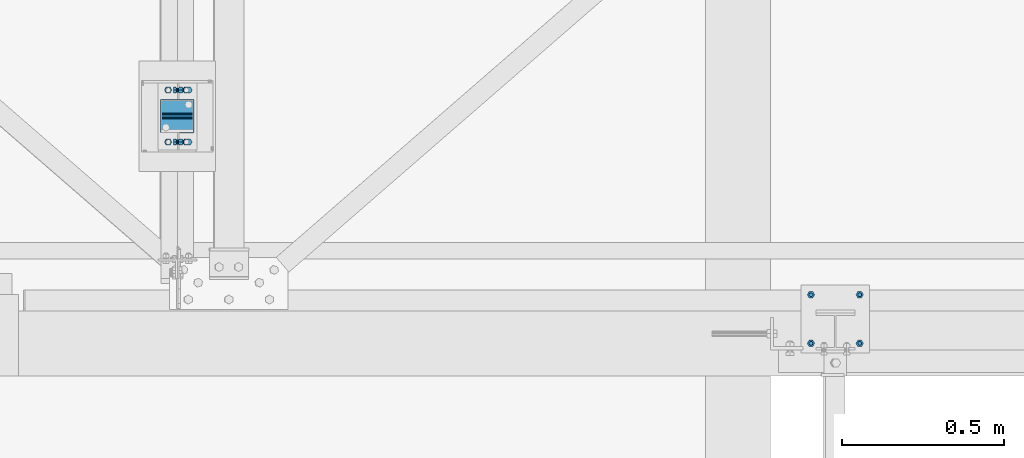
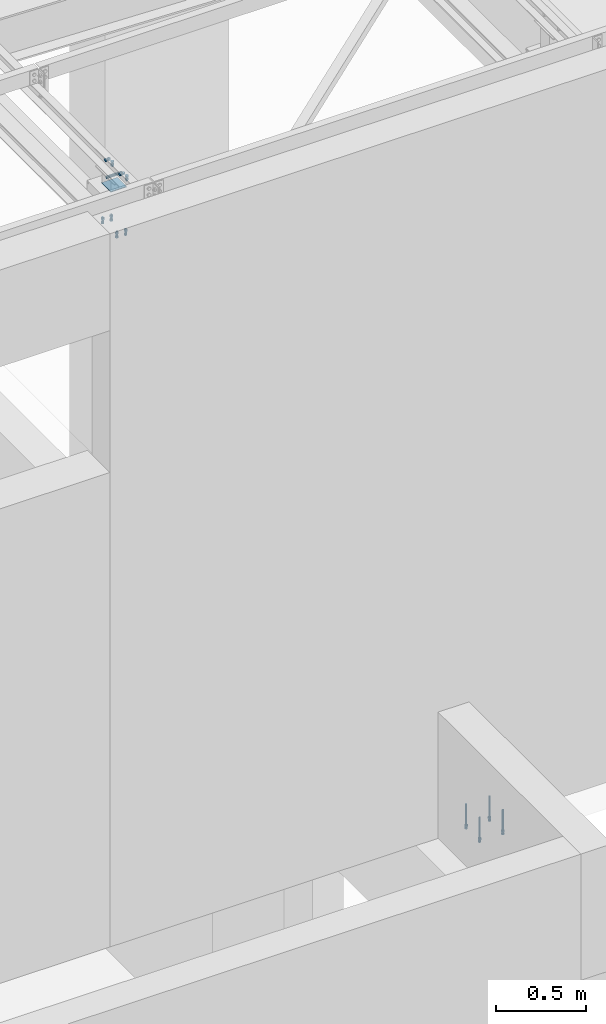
# One storey, part 227 of 3134: 6 mechanical fasteners, 3 elements without a shape of their own.
"""IFC2X3 building model written with IfcOpenShell, lengths in millimetres."""

from ifc_helpers import new_model, si_unit, frame, origin_with_axes, place, context, subcontext, project, spatial, faceted_brep, source, transform, mapped, material, type_object, element, aggregate, save


model = new_model("IFC2X3")

# Units and contexts
model_context = context("Model", 3, precision=1e-05, world=origin_with_axes())
body_context = subcontext(model_context, "Body", "Model", "MODEL_VIEW")
ifc_project = project(units=[si_unit("LENGTHUNIT", "METRE", prefix="MILLI"), si_unit("AREAUNIT", "SQUARE_METRE"), si_unit("VOLUMEUNIT", "CUBIC_METRE"), si_unit("MASSUNIT", "GRAM", prefix="KILO"), si_unit("TIMEUNIT", "SECOND"), si_unit("PLANEANGLEUNIT", "RADIAN"), si_unit("SOLIDANGLEUNIT", "STERADIAN"), si_unit("THERMODYNAMICTEMPERATUREUNIT", "DEGREE_CELSIUS"), si_unit("LUMINOUSINTENSITYUNIT", "LUMEN")], contexts=[model_context])

# Site, building, storey
site_placement = place(None, origin_with_axes())
site = spatial("IfcSite", under=ifc_project, at=site_placement, CompositionType="ELEMENT")
building_placement = place(site_placement, origin_with_axes())
building = spatial("IfcBuilding", under=site, at=building_placement, Name="Undefined", CompositionType="ELEMENT")
storey_placement = place(building_placement, origin_with_axes())
storey = spatial("IfcBuildingStorey", under=building, at=storey_placement, Name="Undefined", CompositionType="ELEMENT", Elevation=0.0)

# Assembly, mechanical fastener
assembly_1_placement = place(storey_placement, origin_with_axes())
assembly_1 = element("IfcElementAssembly", 1, at=assembly_1_placement, inside=storey, Name="HEA120", AssemblyPlace="NOTDEFINED", PredefinedType="RIGID_FRAME")
ifc_material_1 = material(Name="HILTI-HAS")
mechanical_fastener_type = type_object("IfcMechanicalFastenerType", Name="Bolt assembly")
shared_shape_1 = source(origin_with_axes(), body_context, "Body", "Brep", [
    faceted_brep([(10.3923048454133, -17.92, 0.0), (5.19615242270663, -17.92, 9.0), (-5.19615242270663, -17.92, 9.0), (-10.3923048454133, -17.92, 1.27269028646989e-15), (-5.19615242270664, -17.92, -9.0), (5.19615242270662, -17.92, -9.0), (5.19615242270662, -10.0, -9.0), (-5.19615242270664, -10.0, -9.0), (-10.3923048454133, -10.0, 1.27269028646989e-15), (-5.19615242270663, -10.0, 9.0), (5.19615242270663, -10.0, 9.0), (10.3923048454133, -10.0, 0.0), (6.0, -10.0, 0.0), (5.19615242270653, -10.0, 3.00000000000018), (2.99999999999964, -10.0, 5.19615242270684), (-6.21801588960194e-13, -10.0, 6.0), (-3.00000000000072, -10.0, 5.19615242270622), (-5.19615242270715, -10.0, 2.9999999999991), (-6.0, -10.0, -1.24360317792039e-12), (-5.19615242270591, -10.0, -3.00000000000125), (-2.99999999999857, -10.0, -5.19615242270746), (1.85874342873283e-12, -10.0, -6.0), (3.00000000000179, -10.0, -5.1961524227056), (5.19615242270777, -10.0, -2.99999999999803), (5.19615242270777, 150.0, -2.99999999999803), (3.00000000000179, 150.0, -5.1961524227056), (1.85874342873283e-12, 150.0, -6.0), (-2.99999999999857, 150.0, -5.19615242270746), (-5.19615242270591, 150.0, -3.00000000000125), (-6.0, 150.0, -1.24360317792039e-12), (-5.19615242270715, 150.0, 2.9999999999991), (-3.00000000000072, 150.0, 5.19615242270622), (-6.21801588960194e-13, 150.0, 6.0), (2.99999999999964, 150.0, 5.19615242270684), (5.19615242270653, 150.0, 3.00000000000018), (6.0, 150.0, 0.0), (11.5008173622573, 0.0, 0.0), (5.75040868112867, 0.0, 9.96), (-5.75040868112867, 0.0, 9.96), (-11.5008173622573, 0.0, 1.40844391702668e-15), (-5.75040868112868, 0.0, -9.96), (5.75040868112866, 0.0, -9.96), (5.75040868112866, 7.92, -9.96), (-5.75040868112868, 7.92, -9.96), (-11.5008173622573, 7.92, 1.40844391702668e-15), (-5.75040868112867, 7.92, 9.96), (5.75040868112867, 7.92, 9.96), (11.5008173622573, 7.92, 0.0)], [[[0, 1, 2, 3, 4, 5]], [[6, 7, 8, 9, 10, 11]], [[0, 11, 10, 1]], [[1, 10, 9, 2]], [[2, 9, 8, 3]], [[3, 8, 7, 4]], [[4, 7, 6, 5]], [[5, 6, 11, 0]], [[12, 13, 14, 15, 16, 17, 18, 19, 20, 21, 22, 23]], [[24, 25, 26, 27, 28, 29, 30, 31, 32, 33, 34, 35]], [[12, 35, 34, 13]], [[13, 34, 33, 14]], [[14, 33, 32, 15]], [[15, 32, 31, 16]], [[16, 31, 30, 17]], [[17, 30, 29, 18]], [[18, 29, 28, 19]], [[19, 28, 27, 20]], [[20, 27, 26, 21]], [[21, 26, 25, 22]], [[22, 25, 24, 23]], [[23, 24, 35, 12]], [[36, 37, 38, 39, 40, 41]], [[42, 43, 44, 45, 46, 47]], [[36, 47, 46, 37]], [[37, 46, 45, 38]], [[38, 45, 44, 39]], [[39, 44, 43, 40]], [[40, 43, 42, 41]], [[41, 42, 47, 36]]]),
    faceted_brep([(7.0, -10.0, 0.0), (6.06217782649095, -10.0, 3.50000000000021), (3.49999999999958, -10.0, 6.06217782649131), (-7.25435187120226e-13, -10.0, 7.0), (-3.50000000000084, -10.0, 6.06217782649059), (-6.06217782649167, -10.0, 3.49999999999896), (-7.0, -10.0, -1.45087037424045e-12), (-6.06217782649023, -10.0, -3.50000000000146), (-3.49999999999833, -10.0, -6.06217782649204), (2.1685340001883e-12, -10.0, -7.0), (3.50000000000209, -10.0, -6.06217782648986), (6.0621778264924, -10.0, -3.4999999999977), (6.0621778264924, 0.0999999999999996, -3.4999999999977), (3.50000000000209, 0.0999999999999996, -6.06217782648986), (2.1685340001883e-12, 0.0999999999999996, -7.0), (-3.49999999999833, 0.0999999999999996, -6.06217782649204), (-6.06217782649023, 0.0999999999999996, -3.50000000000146), (-7.0, 0.0999999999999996, -1.45087037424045e-12), (-6.06217782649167, 0.0999999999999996, 3.49999999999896), (-3.50000000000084, 0.0999999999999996, 6.06217782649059), (-7.25435187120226e-13, 0.0999999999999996, 7.0), (3.49999999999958, 0.0999999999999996, 6.06217782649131), (6.06217782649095, 0.0999999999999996, 3.50000000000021), (7.0, 0.0999999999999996, 0.0)], [[[0, 1, 2, 3, 4, 5, 6, 7, 8, 9, 10, 11]], [[12, 13, 14, 15, 16, 17, 18, 19, 20, 21, 22, 23]], [[0, 23, 22, 1]], [[1, 22, 21, 2]], [[2, 21, 20, 3]], [[3, 20, 19, 4]], [[4, 19, 18, 5]], [[5, 18, 17, 6]], [[6, 17, 16, 7]], [[7, 16, 15, 8]], [[8, 15, 14, 9]], [[9, 14, 13, 10]], [[10, 13, 12, 11]], [[11, 12, 23, 0]]]),
])
mechanical_fastener_1_placement = place(assembly_1_placement, frame((27970.0, 49894.9999999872, 5960.0), z_axis=(0.0, -1.0, 0.0), x_axis=(1.0, 0.0, 0.0)))
mechanical_fastener_1 = element("IfcMechanicalFastener", 2, at=mechanical_fastener_1_placement, type_object=mechanical_fastener_type, material=ifc_material_1, Name="Bolt assembly", NominalDiameter=12.0, NominalLength=160.0, context=body_context, shape_type="MappedRepresentation", body=[
    mapped(shared_shape_1, transform((0.0, 0.0, -75.0))),
    mapped(shared_shape_1, transform((150.0, 0.0, -75.0))),
    mapped(shared_shape_1, transform((0.0, 0.0, 75.0))),
    mapped(shared_shape_1, transform((150.0, 0.0, 75.0))),
])
aggregate(assembly_1, [mechanical_fastener_1])

assembly_2_placement = place(storey_placement, origin_with_axes())
assembly_2 = element("IfcElementAssembly", 3, at=assembly_2_placement, inside=storey, AssemblyPlace="NOTDEFINED", PredefinedType="RIGID_FRAME")
ifc_material_2 = material(Name="8.8")
shared_shape_2 = source(origin_with_axes(), body_context, "Body", "Brep", [
    faceted_brep([(10.9696551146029, -14.0, 0.0), (5.48482755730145, -14.0, 9.5), (-5.48482755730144, -14.0, 9.5), (-10.9696551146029, -14.0, 1.34339530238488e-15), (-5.48482755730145, -14.0, -9.5), (5.48482755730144, -14.0, -9.50000000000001), (5.48482755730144, -6.0, -9.50000000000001), (-5.48482755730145, -6.0, -9.5), (-10.9696551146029, -6.0, 1.34339530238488e-15), (-5.48482755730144, -6.0, 9.5), (5.48482755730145, -6.0, 9.5), (10.9696551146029, -6.0, 0.0), (6.0, -6.0, 0.0), (5.19615242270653, -6.0, 3.00000000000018), (2.99999999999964, -6.0, 5.19615242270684), (-6.21801588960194e-13, -6.0, 6.0), (-3.00000000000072, -6.0, 5.19615242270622), (-5.19615242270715, -6.0, 2.9999999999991), (-6.0, -6.0, -1.24360317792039e-12), (-5.19615242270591, -6.0, -3.00000000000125), (-2.99999999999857, -6.0, -5.19615242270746), (1.85874342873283e-12, -6.0, -6.0), (3.00000000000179, -6.0, -5.1961524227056), (5.19615242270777, -6.0, -2.99999999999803), (5.19615242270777, 24.0, -2.99999999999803), (3.00000000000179, 24.0, -5.1961524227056), (1.85874342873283e-12, 24.0, -6.0), (-2.99999999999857, 24.0, -5.19615242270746), (-5.19615242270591, 24.0, -3.00000000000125), (-6.0, 24.0, -1.24360317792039e-12), (-5.19615242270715, 24.0, 2.9999999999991), (-3.00000000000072, 24.0, 5.19615242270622), (-6.21801588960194e-13, 24.0, 6.0), (2.99999999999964, 24.0, 5.19615242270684), (5.19615242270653, 24.0, 3.00000000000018), (6.0, 24.0, 0.0), (10.9696551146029, 6.00000000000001, 0.0), (5.48482755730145, 6.00000000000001, 9.5), (-5.48482755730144, 6.00000000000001, 9.5), (-10.9696551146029, 6.00000000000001, 1.34339530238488e-15), (-5.48482755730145, 6.00000000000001, -9.5), (5.48482755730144, 6.00000000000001, -9.50000000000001), (5.48482755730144, 16.0, -9.50000000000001), (-5.48482755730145, 16.0, -9.5), (-10.9696551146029, 16.0, 1.34339530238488e-15), (-5.48482755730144, 16.0, 9.5), (5.48482755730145, 16.0, 9.5), (10.9696551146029, 16.0, 0.0)], [[[0, 1, 2, 3, 4, 5]], [[6, 7, 8, 9, 10, 11]], [[0, 11, 10, 1]], [[1, 10, 9, 2]], [[2, 9, 8, 3]], [[3, 8, 7, 4]], [[4, 7, 6, 5]], [[5, 6, 11, 0]], [[12, 13, 14, 15, 16, 17, 18, 19, 20, 21, 22, 23]], [[24, 25, 26, 27, 28, 29, 30, 31, 32, 33, 34, 35]], [[12, 35, 34, 13]], [[13, 34, 33, 14]], [[14, 33, 32, 15]], [[15, 32, 31, 16]], [[16, 31, 30, 17]], [[17, 30, 29, 18]], [[18, 29, 28, 19]], [[19, 28, 27, 20]], [[20, 27, 26, 21]], [[21, 26, 25, 22]], [[22, 25, 24, 23]], [[23, 24, 35, 12]], [[36, 37, 38, 39, 40, 41]], [[42, 43, 44, 45, 46, 47]], [[36, 47, 46, 37]], [[37, 46, 45, 38]], [[38, 45, 44, 39]], [[39, 44, 43, 40]], [[40, 43, 42, 41]], [[41, 42, 47, 36]]]),
    faceted_brep([(7.0, -0.1, 0.0), (6.06217782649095, -0.1, 3.50000000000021), (3.49999999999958, -0.1, 6.06217782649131), (-7.25435187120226e-13, -0.1, 7.0), (-3.50000000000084, -0.1, 6.06217782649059), (-6.06217782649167, -0.1, 3.49999999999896), (-7.0, -0.1, -1.45087037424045e-12), (-6.06217782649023, -0.1, -3.50000000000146), (-3.49999999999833, -0.1, -6.06217782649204), (2.1685340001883e-12, -0.1, -7.0), (3.50000000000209, -0.1, -6.06217782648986), (6.0621778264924, -0.1, -3.4999999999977), (6.0621778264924, 6.00000000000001, -3.4999999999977), (3.50000000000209, 6.00000000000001, -6.06217782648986), (2.1685340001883e-12, 6.00000000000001, -7.0), (-3.49999999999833, 6.00000000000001, -6.06217782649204), (-6.06217782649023, 6.00000000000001, -3.50000000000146), (-7.0, 6.00000000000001, -1.45087037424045e-12), (-6.06217782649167, 6.00000000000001, 3.49999999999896), (-3.50000000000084, 6.00000000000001, 6.06217782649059), (-7.25435187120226e-13, 6.00000000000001, 7.0), (3.49999999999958, 6.00000000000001, 6.06217782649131), (6.06217782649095, 6.00000000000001, 3.50000000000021), (7.0, 6.00000000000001, 0.0), (7.0, -5.9, 0.0), (6.06217782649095, -5.9, 3.50000000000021), (3.49999999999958, -5.9, 6.06217782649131), (-7.25435187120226e-13, -5.9, 7.0), (-3.50000000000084, -5.9, 6.06217782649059), (-6.06217782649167, -5.9, 3.49999999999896), (-7.0, -5.9, -1.45087037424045e-12), (-6.06217782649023, -5.9, -3.50000000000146), (-3.49999999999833, -5.9, -6.06217782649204), (2.1685340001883e-12, -5.9, -7.0), (3.50000000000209, -5.9, -6.06217782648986), (6.0621778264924, -5.9, -3.4999999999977), (6.0621778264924, 0.0999999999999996, -3.4999999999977), (3.50000000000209, 0.0999999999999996, -6.06217782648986), (2.1685340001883e-12, 0.0999999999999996, -7.0), (-3.49999999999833, 0.0999999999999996, -6.06217782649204), (-6.06217782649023, 0.0999999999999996, -3.50000000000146), (-7.0, 0.0999999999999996, -1.45087037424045e-12), (-6.06217782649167, 0.0999999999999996, 3.49999999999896), (-3.50000000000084, 0.0999999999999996, 6.06217782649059), (-7.25435187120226e-13, 0.0999999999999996, 7.0), (3.49999999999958, 0.0999999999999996, 6.06217782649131), (6.06217782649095, 0.0999999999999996, 3.50000000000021), (7.0, 0.0999999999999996, 0.0)], [[[0, 1, 2, 3, 4, 5, 6, 7, 8, 9, 10, 11]], [[12, 13, 14, 15, 16, 17, 18, 19, 20, 21, 22, 23]], [[0, 23, 22, 1]], [[1, 22, 21, 2]], [[2, 21, 20, 3]], [[3, 20, 19, 4]], [[4, 19, 18, 5]], [[5, 18, 17, 6]], [[6, 17, 16, 7]], [[7, 16, 15, 8]], [[8, 15, 14, 9]], [[9, 14, 13, 10]], [[10, 13, 12, 11]], [[11, 12, 23, 0]], [[24, 25, 26, 27, 28, 29, 30, 31, 32, 33, 34, 35]], [[36, 37, 38, 39, 40, 41, 42, 43, 44, 45, 46, 47]], [[24, 47, 46, 25]], [[25, 46, 45, 26]], [[26, 45, 44, 27]], [[27, 44, 43, 28]], [[28, 43, 42, 29]], [[29, 42, 41, 30]], [[30, 41, 40, 31]], [[31, 40, 39, 32]], [[32, 39, 38, 33]], [[33, 38, 37, 34]], [[34, 37, 36, 35]], [[35, 36, 47, 24]]]),
])
mechanical_fastener_2_placement = place(assembly_2_placement, frame((26054.0, 50520.0, 10765.0), z_axis=(0.0, -1.0, 0.0), x_axis=(-1.0, 0.0, 0.0)))
mechanical_fastener_2 = element("IfcMechanicalFastener", 4, at=mechanical_fastener_2_placement, type_object=mechanical_fastener_type, material=ifc_material_2, Name="Bolt assembly", NominalDiameter=12.0, NominalLength=30.0, context=body_context, shape_type="MappedRepresentation", body=[
    mapped(shared_shape_2, transform((0.0, -5.32963895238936e-10, -79.9999999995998))),
    mapped(shared_shape_2, transform((0.0, 5.3114490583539e-10, 79.9999999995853))),
])

# Assembly, mechanical fasteners
assembly_3_placement = place(storey_placement, origin_with_axes())
assembly_3 = element("IfcElementAssembly", 5, at=assembly_3_placement, inside=storey, AssemblyPlace="NOTDEFINED", PredefinedType="RIGID_FRAME")
shared_shape_3 = source(origin_with_axes(), body_context, "Body", "Brep", [
    faceted_brep([(9.0, -50.0, 0.0), (7.79422863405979, -50.0, 4.50000000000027), (4.49999999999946, -50.0, 7.79422863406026), (-9.3270238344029e-13, -50.0, 9.0), (-4.50000000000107, -50.0, 7.79422863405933), (-7.79422863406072, -50.0, 4.49999999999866), (-9.0, -50.0, -1.86540476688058e-12), (-7.79422863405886, -50.0, -4.50000000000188), (-4.49999999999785, -50.0, -7.79422863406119), (2.78811514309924e-12, -50.0, -9.0), (4.50000000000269, -50.0, -7.7942286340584), (7.79422863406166, -50.0, -4.49999999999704), (7.79422863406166, 50.1, -4.49999999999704), (4.50000000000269, 50.1, -7.7942286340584), (2.78811514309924e-12, 50.1, -9.0), (-4.49999999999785, 50.1, -7.79422863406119), (-7.79422863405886, 50.1, -4.50000000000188), (-9.0, 50.1, -1.86540476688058e-12), (-7.79422863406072, 50.1, 4.49999999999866), (-4.50000000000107, 50.1, 7.79422863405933), (-9.3270238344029e-13, 50.1, 9.0), (4.49999999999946, 50.1, 7.79422863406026), (7.79422863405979, 50.1, 4.50000000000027), (9.0, 50.1, 0.0)], [[[0, 1, 2, 3, 4, 5, 6, 7, 8, 9, 10, 11]], [[12, 13, 14, 15, 16, 17, 18, 19, 20, 21, 22, 23]], [[0, 23, 22, 1]], [[1, 22, 21, 2]], [[2, 21, 20, 3]], [[3, 20, 19, 4]], [[4, 19, 18, 5]], [[5, 18, 17, 6]], [[6, 17, 16, 7]], [[7, 16, 15, 8]], [[8, 15, 14, 9]], [[9, 14, 13, 10]], [[10, 13, 12, 11]], [[11, 12, 23, 0]]]),
])
mechanical_fastener_3_placement = place(assembly_3_placement, frame((26019.0, 50520.0, 10745.0), z_axis=(0.0, 1.0, 0.0), x_axis=(0.0, 0.0, 1.0)))
mechanical_fastener_3 = element("IfcMechanicalFastener", 6, at=mechanical_fastener_3_placement, type_object=mechanical_fastener_type, material=ifc_material_2, Name="Bolt assembly", NominalDiameter=16.0, NominalLength=100.0, context=body_context, shape_type="MappedRepresentation", body=[
    mapped(shared_shape_3, transform((0.0, 0.0, 0.0))),
])
ifc_material_3 = material(Name="6.8")
shared_shape_4 = source(origin_with_axes(), body_context, "Body", "Brep", [
    faceted_brep([(51.5, 1.36424205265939e-12, 50.0), (51.3858192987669, 1.36424205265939e-12, 50.5740251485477), (51.0606601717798, 1.36424205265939e-12, 51.0606601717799), (50.5740251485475, 1.36424205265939e-12, 51.385819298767), (-50.0000000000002, 1.36424205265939e-12, 51.5), (-50.7500000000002, 1.36424205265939e-12, 51.2990381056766), (-51.2990381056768, 1.36424205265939e-12, 50.7499999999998), (-51.5, 1.36424205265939e-12, 49.9999999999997), (-51.5, 1.36424205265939e-12, -50.0000000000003), (-51.2990381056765, 1.36424205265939e-12, -50.7500000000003), (-50.7499999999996, 1.36424205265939e-12, -51.2990381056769), (-49.9999999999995, 1.36424205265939e-12, -51.5), (50.0000000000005, 1.36424205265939e-12, -51.5), (50.7500000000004, 1.36424205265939e-12, -51.2990381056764), (51.2990381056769, 1.36424205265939e-12, -50.7499999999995), (51.5, 1.36424205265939e-12, -49.9999999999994), (51.5, 5.10000000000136, -49.9999999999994), (51.2990381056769, 5.10000000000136, -50.7499999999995), (50.7500000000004, 5.10000000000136, -51.2990381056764), (50.0000000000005, 5.10000000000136, -51.5), (-49.9999999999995, 5.10000000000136, -51.5), (-50.7499999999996, 5.10000000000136, -51.2990381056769), (-51.2990381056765, 5.10000000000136, -50.7500000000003), (-51.5, 5.10000000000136, -50.0000000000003), (-51.5, 5.10000000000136, 49.9999999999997), (-51.2990381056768, 5.10000000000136, 50.7499999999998), (-50.7500000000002, 5.10000000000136, 51.2990381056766), (-50.0000000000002, 5.10000000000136, 51.5), (50.5740251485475, 5.10000000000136, 51.385819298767), (51.0606601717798, 5.10000000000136, 51.0606601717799), (51.3858192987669, 5.10000000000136, 50.5740251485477), (51.5, 5.10000000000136, 50.0)], [[[0, 1, 2, 3, 4, 5, 6, 7, 8, 9, 10, 11, 12, 13, 14, 15]], [[16, 17, 18, 19, 20, 21, 22, 23, 24, 25, 26, 27, 28, 29, 30, 31]], [[0, 31, 30, 1]], [[1, 30, 29, 2]], [[2, 29, 28, 3]], [[3, 28, 27, 4]], [[4, 27, 26, 5]], [[5, 26, 25, 6]], [[6, 25, 24, 7]], [[7, 24, 23, 8]], [[8, 23, 22, 9]], [[9, 22, 21, 10]], [[10, 21, 20, 11]], [[11, 20, 19, 12]], [[12, 19, 18, 13]], [[13, 18, 17, 14]], [[14, 17, 16, 15]], [[15, 16, 31, 0]]]),
])
mechanical_fastener_4_placement = place(assembly_3_placement, frame((26019.0, 50520.0, 10679.21), z_axis=(0.0, -1.0, 0.0), x_axis=(-1.0, 0.0, 0.0)))
mechanical_fastener_4 = element("IfcMechanicalFastener", 7, at=mechanical_fastener_4_placement, type_object=mechanical_fastener_type, material=ifc_material_3, Name="Bolt assembly", NominalDiameter=10.0, NominalLength=5.0, context=body_context, shape_type="MappedRepresentation", body=[
    mapped(shared_shape_4, transform((0.0, 0.0, 0.0))),
])

# Mechanical fastener
shared_shape_5 = source(origin_with_axes(), body_context, "Body", "Brep", [
    faceted_brep([(10.9696551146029, -12.0, 0.0), (5.48482755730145, -12.0, 9.5), (-5.48482755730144, -12.0, 9.5), (-10.9696551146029, -12.0, 1.34339530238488e-15), (-5.48482755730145, -12.0, -9.5), (5.48482755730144, -12.0, -9.50000000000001), (5.48482755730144, -4.0, -9.50000000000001), (-5.48482755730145, -4.0, -9.5), (-10.9696551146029, -4.0, 1.34339530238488e-15), (-5.48482755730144, -4.0, 9.5), (5.48482755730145, -4.0, 9.5), (10.9696551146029, -4.0, 0.0), (6.0, -4.0, 0.0), (5.19615242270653, -4.0, 3.00000000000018), (2.99999999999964, -4.0, 5.19615242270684), (-6.21801588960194e-13, -4.0, 6.0), (-3.00000000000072, -4.0, 5.19615242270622), (-5.19615242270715, -4.0, 2.9999999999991), (-6.0, -4.0, -1.24360317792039e-12), (-5.19615242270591, -4.0, -3.00000000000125), (-2.99999999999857, -4.0, -5.19615242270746), (1.85874342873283e-12, -4.0, -6.0), (3.00000000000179, -4.0, -5.1961524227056), (5.19615242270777, -4.0, -2.99999999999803), (5.19615242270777, 21.0, -2.99999999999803), (3.00000000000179, 21.0, -5.1961524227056), (1.85874342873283e-12, 21.0, -6.0), (-2.99999999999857, 21.0, -5.19615242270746), (-5.19615242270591, 21.0, -3.00000000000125), (-6.0, 21.0, -1.24360317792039e-12), (-5.19615242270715, 21.0, 2.9999999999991), (-3.00000000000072, 21.0, 5.19615242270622), (-6.21801588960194e-13, 21.0, 6.0), (2.99999999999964, 21.0, 5.19615242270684), (5.19615242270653, 21.0, 3.00000000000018), (6.0, 21.0, 0.0), (10.9696551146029, 6.00000000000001, 0.0), (5.48482755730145, 6.00000000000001, 9.5), (-5.48482755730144, 6.00000000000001, 9.5), (-10.9696551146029, 6.00000000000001, 1.34339530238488e-15), (-5.48482755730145, 6.00000000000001, -9.5), (5.48482755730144, 6.00000000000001, -9.50000000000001), (5.48482755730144, 16.0, -9.50000000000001), (-5.48482755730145, 16.0, -9.5), (-10.9696551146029, 16.0, 1.34339530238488e-15), (-5.48482755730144, 16.0, 9.5), (5.48482755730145, 16.0, 9.5), (10.9696551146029, 16.0, 0.0)], [[[0, 1, 2, 3, 4, 5]], [[6, 7, 8, 9, 10, 11]], [[0, 11, 10, 1]], [[1, 10, 9, 2]], [[2, 9, 8, 3]], [[3, 8, 7, 4]], [[4, 7, 6, 5]], [[5, 6, 11, 0]], [[12, 13, 14, 15, 16, 17, 18, 19, 20, 21, 22, 23]], [[24, 25, 26, 27, 28, 29, 30, 31, 32, 33, 34, 35]], [[12, 35, 34, 13]], [[13, 34, 33, 14]], [[14, 33, 32, 15]], [[15, 32, 31, 16]], [[16, 31, 30, 17]], [[17, 30, 29, 18]], [[18, 29, 28, 19]], [[19, 28, 27, 20]], [[20, 27, 26, 21]], [[21, 26, 25, 22]], [[22, 25, 24, 23]], [[23, 24, 35, 12]], [[36, 37, 38, 39, 40, 41]], [[42, 43, 44, 45, 46, 47]], [[36, 47, 46, 37]], [[37, 46, 45, 38]], [[38, 45, 44, 39]], [[39, 44, 43, 40]], [[40, 43, 42, 41]], [[41, 42, 47, 36]]]),
    faceted_brep([(7.0, -3.9, 0.0), (6.06217782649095, -3.9, 3.50000000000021), (3.49999999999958, -3.9, 6.06217782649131), (-7.25435187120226e-13, -3.9, 7.0), (-3.50000000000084, -3.9, 6.06217782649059), (-6.06217782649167, -3.9, 3.49999999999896), (-7.0, -3.9, -1.45087037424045e-12), (-6.06217782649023, -3.9, -3.50000000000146), (-3.49999999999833, -3.9, -6.06217782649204), (2.1685340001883e-12, -3.9, -7.0), (3.50000000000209, -3.9, -6.06217782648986), (6.0621778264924, -3.9, -3.4999999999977), (6.0621778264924, 0.0999999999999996, -3.4999999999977), (3.50000000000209, 0.0999999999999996, -6.06217782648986), (2.1685340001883e-12, 0.0999999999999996, -7.0), (-3.49999999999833, 0.0999999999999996, -6.06217782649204), (-6.06217782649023, 0.0999999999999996, -3.50000000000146), (-7.0, 0.0999999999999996, -1.45087037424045e-12), (-6.06217782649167, 0.0999999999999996, 3.49999999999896), (-3.50000000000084, 0.0999999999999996, 6.06217782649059), (-7.25435187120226e-13, 0.0999999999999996, 7.0), (3.49999999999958, 0.0999999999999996, 6.06217782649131), (6.06217782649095, 0.0999999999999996, 3.50000000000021), (7.0, 0.0999999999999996, 0.0), (7.0, -0.1, 0.0), (6.06217782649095, -0.1, 3.50000000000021), (3.49999999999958, -0.1, 6.06217782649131), (-7.25435187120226e-13, -0.1, 7.0), (-3.50000000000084, -0.1, 6.06217782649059), (-6.06217782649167, -0.1, 3.49999999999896), (-7.0, -0.1, -1.45087037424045e-12), (-6.06217782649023, -0.1, -3.50000000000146), (-3.49999999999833, -0.1, -6.06217782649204), (2.1685340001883e-12, -0.1, -7.0), (3.50000000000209, -0.1, -6.06217782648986), (6.0621778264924, -0.1, -3.4999999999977), (6.0621778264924, 6.00000000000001, -3.4999999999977), (3.50000000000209, 6.00000000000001, -6.06217782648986), (2.1685340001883e-12, 6.00000000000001, -7.0), (-3.49999999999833, 6.00000000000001, -6.06217782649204), (-6.06217782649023, 6.00000000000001, -3.50000000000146), (-7.0, 6.00000000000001, -1.45087037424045e-12), (-6.06217782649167, 6.00000000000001, 3.49999999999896), (-3.50000000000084, 6.00000000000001, 6.06217782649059), (-7.25435187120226e-13, 6.00000000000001, 7.0), (3.49999999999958, 6.00000000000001, 6.06217782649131), (6.06217782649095, 6.00000000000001, 3.50000000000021), (7.0, 6.00000000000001, 0.0)], [[[0, 1, 2, 3, 4, 5, 6, 7, 8, 9, 10, 11]], [[12, 13, 14, 15, 16, 17, 18, 19, 20, 21, 22, 23]], [[0, 23, 22, 1]], [[1, 22, 21, 2]], [[2, 21, 20, 3]], [[3, 20, 19, 4]], [[4, 19, 18, 5]], [[5, 18, 17, 6]], [[6, 17, 16, 7]], [[7, 16, 15, 8]], [[8, 15, 14, 9]], [[9, 14, 13, 10]], [[10, 13, 12, 11]], [[11, 12, 23, 0]], [[24, 25, 26, 27, 28, 29, 30, 31, 32, 33, 34, 35]], [[36, 37, 38, 39, 40, 41, 42, 43, 44, 45, 46, 47]], [[24, 47, 46, 25]], [[25, 46, 45, 26]], [[26, 45, 44, 27]], [[27, 44, 43, 28]], [[28, 43, 42, 29]], [[29, 42, 41, 30]], [[30, 41, 40, 31]], [[31, 40, 39, 32]], [[32, 39, 38, 33]], [[33, 38, 37, 34]], [[34, 37, 36, 35]], [[35, 36, 47, 24]]]),
])
mechanical_fastener_5_placement = place(assembly_2_placement, frame((26019.0, 50520.0, 10800.0), z_axis=(0.0, -1.0, 0.0), x_axis=(0.0, 0.0, -1.0)))
mechanical_fastener_5 = element("IfcMechanicalFastener", 8, at=mechanical_fastener_5_placement, type_object=mechanical_fastener_type, material=ifc_material_2, Name="Bolt assembly", NominalDiameter=12.0, NominalLength=25.0, context=body_context, shape_type="MappedRepresentation", body=[
    mapped(shared_shape_5, transform((0.0, -5.32963895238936e-10, -79.9999999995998))),
    mapped(shared_shape_5, transform((0.0, 5.3114490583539e-10, 79.9999999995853))),
])

aggregate(assembly_2, [mechanical_fastener_5, mechanical_fastener_2])

shared_shape_6 = source(origin_with_axes(), body_context, "Body", "Brep", [
    faceted_brep([(10.9696551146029, -2.99057758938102, 0.0), (5.48482755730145, -2.99057758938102, 9.5), (-5.48482755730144, -2.99057758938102, 9.5), (-10.9696551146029, -2.99057758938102, 1.34339530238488e-15), (-5.48482755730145, -2.99057758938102, -9.5), (5.48482755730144, -2.99057758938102, -9.50000000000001), (5.48482755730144, 5.00942241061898, -9.50000000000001), (-5.48482755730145, 5.00942241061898, -9.5), (-10.9696551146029, 5.00942241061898, 1.34339530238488e-15), (-5.48482755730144, 5.00942241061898, 9.5), (5.48482755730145, 5.00942241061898, 9.5), (10.9696551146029, 5.00942241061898, 0.0), (6.0, 5.00942241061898, 0.0), (5.19615242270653, 5.00942241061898, 3.00000000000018), (2.99999999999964, 5.00942241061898, 5.19615242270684), (-6.21801588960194e-13, 5.00942241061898, 6.0), (-3.00000000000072, 5.00942241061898, 5.19615242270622), (-5.19615242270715, 5.00942241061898, 2.9999999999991), (-6.0, 5.00942241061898, -1.24360317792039e-12), (-5.19615242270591, 5.00942241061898, -3.00000000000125), (-2.99999999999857, 5.00942241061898, -5.19615242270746), (1.85874342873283e-12, 5.00942241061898, -6.0), (3.00000000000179, 5.00942241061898, -5.1961524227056), (5.19615242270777, 5.00942241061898, -2.99999999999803), (5.19615242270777, 40.009422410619, -2.99999999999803), (3.00000000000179, 40.009422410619, -5.1961524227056), (1.85874342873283e-12, 40.009422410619, -6.0), (-2.99999999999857, 40.009422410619, -5.19615242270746), (-5.19615242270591, 40.009422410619, -3.00000000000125), (-6.0, 40.009422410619, -1.24360317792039e-12), (-5.19615242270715, 40.009422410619, 2.9999999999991), (-3.00000000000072, 40.009422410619, 5.19615242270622), (-6.21801588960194e-13, 40.009422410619, 6.0), (2.99999999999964, 40.009422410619, 5.19615242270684), (5.19615242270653, 40.009422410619, 3.00000000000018), (6.0, 40.009422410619, 0.0), (10.9696551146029, 23.0139082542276, 0.0), (5.48482755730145, 23.0139082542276, 9.5), (-5.48482755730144, 23.0139082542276, 9.5), (-10.9696551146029, 23.0139082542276, 1.34339530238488e-15), (-5.48482755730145, 23.0139082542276, -9.5), (5.48482755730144, 23.0139082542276, -9.50000000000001), (5.48482755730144, 33.0139082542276, -9.50000000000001), (-5.48482755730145, 33.0139082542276, -9.5), (-10.9696551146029, 33.0139082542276, 1.34339530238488e-15), (-5.48482755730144, 33.0139082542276, 9.5), (5.48482755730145, 33.0139082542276, 9.5), (10.9696551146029, 33.0139082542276, 0.0)], [[[0, 1, 2, 3, 4, 5]], [[6, 7, 8, 9, 10, 11]], [[0, 11, 10, 1]], [[1, 10, 9, 2]], [[2, 9, 8, 3]], [[3, 8, 7, 4]], [[4, 7, 6, 5]], [[5, 6, 11, 0]], [[12, 13, 14, 15, 16, 17, 18, 19, 20, 21, 22, 23]], [[24, 25, 26, 27, 28, 29, 30, 31, 32, 33, 34, 35]], [[12, 35, 34, 13]], [[13, 34, 33, 14]], [[14, 33, 32, 15]], [[15, 32, 31, 16]], [[16, 31, 30, 17]], [[17, 30, 29, 18]], [[18, 29, 28, 19]], [[19, 28, 27, 20]], [[20, 27, 26, 21]], [[21, 26, 25, 22]], [[22, 25, 24, 23]], [[23, 24, 35, 12]], [[36, 37, 38, 39, 40, 41]], [[42, 43, 44, 45, 46, 47]], [[36, 47, 46, 37]], [[37, 46, 45, 38]], [[38, 45, 44, 39]], [[39, 44, 43, 40]], [[40, 43, 42, 41]], [[41, 42, 47, 36]]]),
    faceted_brep([(7.0, 5.10942241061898, 0.0), (6.06217782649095, 5.10942241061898, 3.50000000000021), (3.49999999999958, 5.10942241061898, 6.06217782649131), (-7.25435187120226e-13, 5.10942241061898, 7.0), (-3.50000000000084, 5.10942241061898, 6.06217782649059), (-6.06217782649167, 5.10942241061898, 3.49999999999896), (-7.0, 5.10942241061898, -1.45087037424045e-12), (-6.06217782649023, 5.10942241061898, -3.50000000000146), (-3.49999999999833, 5.10942241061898, -6.06217782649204), (2.1685340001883e-12, 5.10942241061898, -7.0), (3.50000000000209, 5.10942241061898, -6.06217782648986), (6.0621778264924, 5.10942241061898, -3.4999999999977), (6.0621778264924, 13.1094502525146, -3.4999999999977), (3.50000000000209, 13.1094502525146, -6.06217782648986), (2.1685340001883e-12, 13.1094502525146, -7.0), (-3.49999999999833, 13.1094502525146, -6.06217782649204), (-6.06217782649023, 13.1094502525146, -3.50000000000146), (-7.0, 13.1094502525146, -1.45087037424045e-12), (-6.06217782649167, 13.1094502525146, 3.49999999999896), (-3.50000000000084, 13.1094502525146, 6.06217782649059), (-7.25435187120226e-13, 13.1094502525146, 7.0), (3.49999999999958, 13.1094502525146, 6.06217782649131), (6.06217782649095, 13.1094502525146, 3.50000000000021), (7.0, 13.1094502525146, 0.0), (7.0, 14.9139082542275, 0.0), (6.06217782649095, 14.9139082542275, 3.50000000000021), (3.49999999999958, 14.9139082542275, 6.06217782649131), (-7.25435187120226e-13, 14.9139082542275, 7.0), (-3.50000000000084, 14.9139082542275, 6.06217782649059), (-6.06217782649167, 14.9139082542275, 3.49999999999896), (-7.0, 14.9139082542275, -1.45087037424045e-12), (-6.06217782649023, 14.9139082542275, -3.50000000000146), (-3.49999999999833, 14.9139082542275, -6.06217782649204), (2.1685340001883e-12, 14.9139082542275, -7.0), (3.50000000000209, 14.9139082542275, -6.06217782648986), (6.0621778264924, 14.9139082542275, -3.4999999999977), (6.0621778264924, 23.0139082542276, -3.4999999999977), (3.50000000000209, 23.0139082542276, -6.06217782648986), (2.1685340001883e-12, 23.0139082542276, -7.0), (-3.49999999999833, 23.0139082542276, -6.06217782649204), (-6.06217782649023, 23.0139082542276, -3.50000000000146), (-7.0, 23.0139082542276, -1.45087037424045e-12), (-6.06217782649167, 23.0139082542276, 3.49999999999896), (-3.50000000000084, 23.0139082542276, 6.06217782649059), (-7.25435187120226e-13, 23.0139082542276, 7.0), (3.49999999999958, 23.0139082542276, 6.06217782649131), (6.06217782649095, 23.0139082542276, 3.50000000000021), (7.0, 23.0139082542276, 0.0)], [[[0, 1, 2, 3, 4, 5, 6, 7, 8, 9, 10, 11]], [[12, 13, 14, 15, 16, 17, 18, 19, 20, 21, 22, 23]], [[0, 23, 22, 1]], [[1, 22, 21, 2]], [[2, 21, 20, 3]], [[3, 20, 19, 4]], [[4, 19, 18, 5]], [[5, 18, 17, 6]], [[6, 17, 16, 7]], [[7, 16, 15, 8]], [[8, 15, 14, 9]], [[9, 14, 13, 10]], [[10, 13, 12, 11]], [[11, 12, 23, 0]], [[24, 25, 26, 27, 28, 29, 30, 31, 32, 33, 34, 35]], [[36, 37, 38, 39, 40, 41, 42, 43, 44, 45, 46, 47]], [[24, 47, 46, 25]], [[25, 46, 45, 26]], [[26, 45, 44, 27]], [[27, 44, 43, 28]], [[28, 43, 42, 29]], [[29, 42, 41, 30]], [[30, 41, 40, 31]], [[31, 40, 39, 32]], [[32, 39, 38, 33]], [[33, 38, 37, 34]], [[34, 37, 36, 35]], [[35, 36, 47, 24]]]),
])
mechanical_fastener_6_placement = place(assembly_3_placement, frame((25990.360203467, 50520.0016352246, 10380.3949309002), z_axis=(0.0, -1.0, 0.0), x_axis=(0.999519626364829, 0.0, -0.030992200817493)))
mechanical_fastener_6 = element("IfcMechanicalFastener", 9, at=mechanical_fastener_6_placement, type_object=mechanical_fastener_type, material=ifc_material_2, Name="Bolt assembly", NominalDiameter=12.0, NominalLength=35.0, context=body_context, shape_type="MappedRepresentation", body=[
    mapped(shared_shape_6, transform((0.0, -5.32963895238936e-10, -79.9999999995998))),
    mapped(shared_shape_6, transform((55.9999999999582, 4.54747350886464e-13, -80.0))),
    mapped(shared_shape_6, transform((0.0, 5.3114490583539e-10, 79.9999999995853))),
    mapped(shared_shape_6, transform((55.9999999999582, 4.54747350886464e-13, 80.0))),
])

aggregate(assembly_3, [mechanical_fastener_6, mechanical_fastener_4, mechanical_fastener_3])

save(model, "model.ifc")
